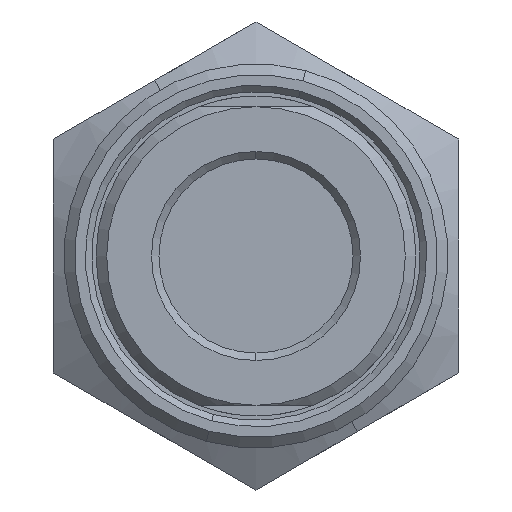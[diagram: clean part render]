
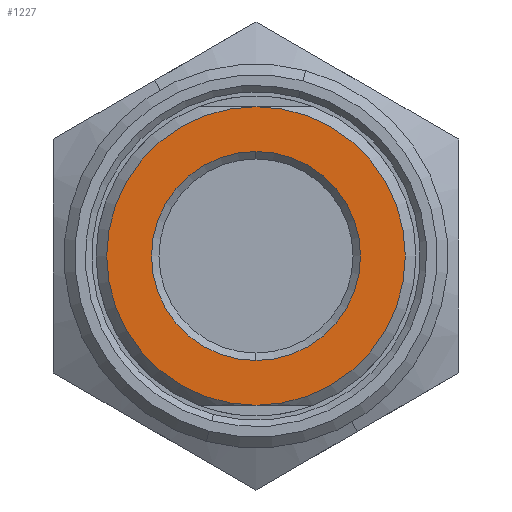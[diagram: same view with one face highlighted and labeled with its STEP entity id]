
A CAD part, front view. The second image highlights one B-rep face of the part: STEP entity #1227.
In plain terms, the highlighted planar face has unit normal (0, -1, 0).
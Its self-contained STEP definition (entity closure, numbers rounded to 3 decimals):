
#225 = AXIS2_PLACEMENT_3D ( 'NONE', #1583, #1584, #1585 ) ;
#375 = EDGE_LOOP ( 'NONE', ( #966, #967 ) ) ;
#376 = EDGE_LOOP ( 'NONE', ( #964, #965 ) ) ;
#440 = VERTEX_POINT ( 'NONE', #600 ) ;
#441 = VERTEX_POINT ( 'NONE', #601 ) ;
#448 = VERTEX_POINT ( 'NONE', #608 ) ;
#449 = VERTEX_POINT ( 'NONE', #609 ) ;
#600 = CARTESIAN_POINT ( 'NONE',  ( 0., 0., 7. ) ) ;
#601 = CARTESIAN_POINT ( 'NONE',  ( 0., 0., -7. ) ) ;
#608 = CARTESIAN_POINT ( 'NONE',  ( 0., 0., 4.9 ) ) ;
#609 = CARTESIAN_POINT ( 'NONE',  ( 0., 0., -4.9 ) ) ;
#964 = ORIENTED_EDGE ( 'NONE', *, *, #1729, .T. ) ;
#965 = ORIENTED_EDGE ( 'NONE', *, *, #1730, .T. ) ;
#966 = ORIENTED_EDGE ( 'NONE', *, *, #1749, .T. ) ;
#967 = ORIENTED_EDGE ( 'NONE', *, *, #1728, .T. ) ;
#1227 = ADVANCED_FACE ( 'NONE', ( #2084, #2085 ), #1576, .T. ) ;
#1576 = PLANE ( 'NONE',  #225 ) ;
#1583 = CARTESIAN_POINT ( 'NONE',  ( 0., 0., 0. ) ) ;
#1584 = DIRECTION ( 'NONE',  ( 0., -1., 0. ) ) ;
#1585 = DIRECTION ( 'NONE',  ( 0., 0., -1. ) ) ;
#1728 = EDGE_CURVE ( 'NONE', #448, #449, #2142, .T. ) ;
#1729 = EDGE_CURVE ( 'NONE', #440, #441, #2145, .T. ) ;
#1730 = EDGE_CURVE ( 'NONE', #441, #440, #2144, .T. ) ;
#1749 = EDGE_CURVE ( 'NONE', #449, #448, #2169, .T. ) ;
#2084 = FACE_OUTER_BOUND ( 'NONE', #376, .T. ) ;
#2085 = FACE_BOUND ( 'NONE', #375, .T. ) ;
#2142 = CIRCLE ( 'NONE', #2613, 4.9 ) ;
#2144 = CIRCLE ( 'NONE', #2615, 7. ) ;
#2145 = CIRCLE ( 'NONE', #2614, 7. ) ;
#2169 = CIRCLE ( 'NONE', #2625, 4.9 ) ;
#2490 = CARTESIAN_POINT ( 'NONE',  ( 0., 0., 0. ) ) ;
#2491 = DIRECTION ( 'NONE',  ( 0., 1., 0. ) ) ;
#2492 = DIRECTION ( 'NONE',  ( 0., 0., 1. ) ) ;
#2494 = CARTESIAN_POINT ( 'NONE',  ( 0., 0., 0. ) ) ;
#2495 = DIRECTION ( 'NONE',  ( 0., -1., 0. ) ) ;
#2496 = DIRECTION ( 'NONE',  ( 0., 0., -1. ) ) ;
#2499 = CARTESIAN_POINT ( 'NONE',  ( 0., 0., 0. ) ) ;
#2500 = DIRECTION ( 'NONE',  ( 0., -1., 0. ) ) ;
#2501 = DIRECTION ( 'NONE',  ( 0., 0., -1. ) ) ;
#2559 = CARTESIAN_POINT ( 'NONE',  ( 0., 0., 0. ) ) ;
#2560 = DIRECTION ( 'NONE',  ( 0., 1., 0. ) ) ;
#2561 = DIRECTION ( 'NONE',  ( 0., 0., 1. ) ) ;
#2613 = AXIS2_PLACEMENT_3D ( 'NONE', #2490, #2491, #2492 ) ;
#2614 = AXIS2_PLACEMENT_3D ( 'NONE', #2494, #2495, #2496 ) ;
#2615 = AXIS2_PLACEMENT_3D ( 'NONE', #2499, #2500, #2501 ) ;
#2625 = AXIS2_PLACEMENT_3D ( 'NONE', #2559, #2560, #2561 ) ;
